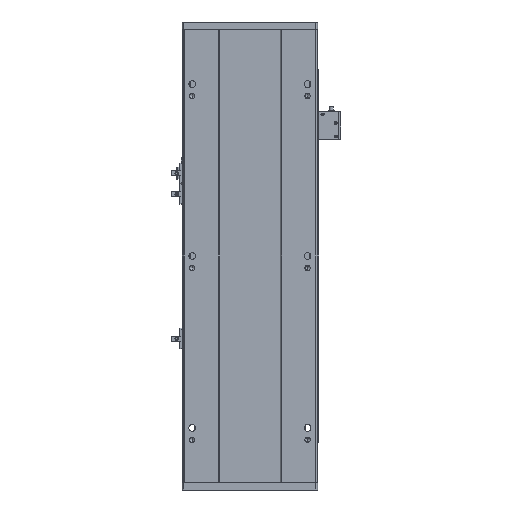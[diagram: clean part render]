
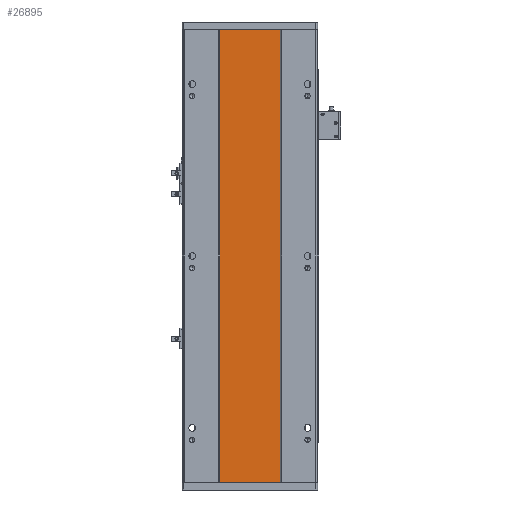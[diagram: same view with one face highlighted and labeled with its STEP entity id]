
A CAD part, front view. The second image highlights one B-rep face of the part: STEP entity #26895.
In plain terms, the highlighted planar face has unit normal (0, -1, 0).
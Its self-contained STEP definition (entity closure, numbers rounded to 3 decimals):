
#156 = EDGE_CURVE ( 'NONE', #2302, #23412, #8614, .T. ) ;
#307 = CARTESIAN_POINT ( 'NONE',  ( 205.288, 16.9, 0. ) ) ;
#1404 = ORIENTED_EDGE ( 'NONE', *, *, #8490, .F. ) ;
#1421 = LINE ( 'NONE', #13225, #22107 ) ;
#2302 = VERTEX_POINT ( 'NONE', #21563 ) ;
#2567 = FACE_OUTER_BOUND ( 'NONE', #12243, .T. ) ;
#3389 = VECTOR ( 'NONE', #6212, 1000. ) ;
#3917 = CARTESIAN_POINT ( 'NONE',  ( 205.288, 16.9, 568. ) ) ;
#5108 = CARTESIAN_POINT ( 'NONE',  ( 205.288, 16.9, 568. ) ) ;
#5994 = EDGE_CURVE ( 'NONE', #9803, #2302, #9736, .T. ) ;
#6212 = DIRECTION ( 'NONE',  ( 1., 0., 0. ) ) ;
#6578 = CARTESIAN_POINT ( 'NONE',  ( 205.288, 16.9, 0. ) ) ;
#6622 = DIRECTION ( 'NONE',  ( 0., 0., -1. ) ) ;
#7077 = LINE ( 'NONE', #3917, #7759 ) ;
#7204 = DIRECTION ( 'NONE',  ( 0., 1., 0. ) ) ;
#7759 = VECTOR ( 'NONE', #18779, 1000. ) ;
#8490 = EDGE_CURVE ( 'NONE', #9803, #10046, #1421, .T. ) ;
#8614 = LINE ( 'NONE', #6578, #3389 ) ;
#9736 = LINE ( 'NONE', #21359, #12028 ) ;
#9803 = VERTEX_POINT ( 'NONE', #17624 ) ;
#10046 = VERTEX_POINT ( 'NONE', #10165 ) ;
#10165 = CARTESIAN_POINT ( 'NONE',  ( 205.288, 16.9, 568. ) ) ;
#11209 = DIRECTION ( 'NONE',  ( 1., 0., 0. ) ) ;
#12028 = VECTOR ( 'NONE', #6622, 1000. ) ;
#12097 = ORIENTED_EDGE ( 'NONE', *, *, #17964, .F. ) ;
#12243 = EDGE_LOOP ( 'NONE', ( #16024, #12097, #1404, #12422 ) ) ;
#12422 = ORIENTED_EDGE ( 'NONE', *, *, #5994, .T. ) ;
#13225 = CARTESIAN_POINT ( 'NONE',  ( 129.288, 16.9, 568. ) ) ;
#16024 = ORIENTED_EDGE ( 'NONE', *, *, #156, .T. ) ;
#16636 = AXIS2_PLACEMENT_3D ( 'NONE', #5108, #7204, #19763 ) ;
#17624 = CARTESIAN_POINT ( 'NONE',  ( 129.288, 16.9, 568. ) ) ;
#17964 = EDGE_CURVE ( 'NONE', #10046, #23412, #7077, .T. ) ;
#18779 = DIRECTION ( 'NONE',  ( 0., 0., -1. ) ) ;
#19763 = DIRECTION ( 'NONE',  ( -1., 0., 0. ) ) ;
#21359 = CARTESIAN_POINT ( 'NONE',  ( 129.288, 16.9, 568. ) ) ;
#21563 = CARTESIAN_POINT ( 'NONE',  ( 129.288, 16.9, 0. ) ) ;
#22107 = VECTOR ( 'NONE', #11209, 1000. ) ;
#23412 = VERTEX_POINT ( 'NONE', #307 ) ;
#25985 = PLANE ( 'NONE',  #16636 ) ;
#26895 = ADVANCED_FACE ( 'NONE', ( #2567 ), #25985, .F. ) ;
